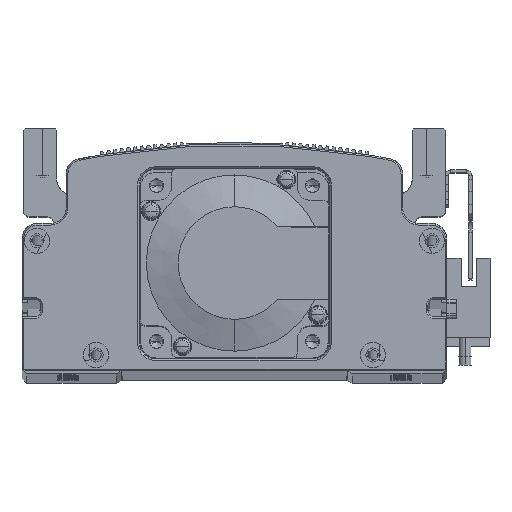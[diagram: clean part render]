
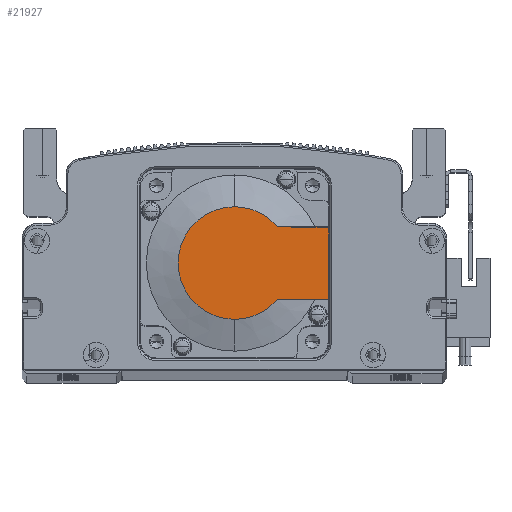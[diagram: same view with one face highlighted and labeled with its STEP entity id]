
A CAD part, top view. The second image highlights one B-rep face of the part: STEP entity #21927.
In plain terms, the highlighted planar face has unit normal (0, 0, 1) as drawn and (-1, 0, 0) by its records, which use the part's own axes.
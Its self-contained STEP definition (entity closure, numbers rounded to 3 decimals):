
#1055 = LINE ( 'NONE', #48870, #12759 ) ;
#2991 = ORIENTED_EDGE ( 'NONE', *, *, #17504, .F. ) ;
#3157 = DIRECTION ( 'NONE',  ( 0., -1., 0. ) ) ;
#4142 = ORIENTED_EDGE ( 'NONE', *, *, #20078, .T. ) ;
#5216 = CARTESIAN_POINT ( 'NONE',  ( -118.5, 30., 25. ) ) ;
#8386 = EDGE_CURVE ( 'NONE', #72467, #21754, #1055, .T. ) ;
#8389 = AXIS2_PLACEMENT_3D ( 'NONE', #21388, #15419, #67828 ) ;
#8963 = CARTESIAN_POINT ( 'NONE',  ( -118.5, 0., 0. ) ) ;
#9481 = CIRCLE ( 'NONE', #30295, 17.881 ) ;
#11027 = DIRECTION ( 'NONE',  ( 0., 0., 1. ) ) ;
#11871 = AXIS2_PLACEMENT_3D ( 'NONE', #8963, #66126, #48629 ) ;
#12759 = VECTOR ( 'NONE', #3157, 1000. ) ;
#15419 = DIRECTION ( 'NONE',  ( -1., 0., 0. ) ) ;
#17504 = EDGE_CURVE ( 'NONE', #72467, #24274, #29685, .T. ) ;
#17765 = CARTESIAN_POINT ( 'NONE',  ( -118.5, 13.735, -11.45 ) ) ;
#20078 = EDGE_CURVE ( 'NONE', #72967, #26400, #34830, .T. ) ;
#20476 = ORIENTED_EDGE ( 'NONE', *, *, #64157, .T. ) ;
#21388 = CARTESIAN_POINT ( 'NONE',  ( -118.5, 0., 0. ) ) ;
#21444 = CARTESIAN_POINT ( 'NONE',  ( -118.5, 0., -17.881 ) ) ;
#21754 = VERTEX_POINT ( 'NONE', #17765 ) ;
#21927 = ADVANCED_FACE ( 'NONE', ( #58047 ), #54968, .T. ) ;
#24268 = CARTESIAN_POINT ( 'NONE',  ( -118.5, 30., -11.45 ) ) ;
#24274 = VERTEX_POINT ( 'NONE', #37502 ) ;
#26400 = VERTEX_POINT ( 'NONE', #38494 ) ;
#27739 = CARTESIAN_POINT ( 'NONE',  ( -118.5, 13.735, 11.45 ) ) ;
#27815 = LINE ( 'NONE', #64529, #44928 ) ;
#29392 = CIRCLE ( 'NONE', #11871, 17.881 ) ;
#29685 = LINE ( 'NONE', #5216, #57596 ) ;
#30295 = AXIS2_PLACEMENT_3D ( 'NONE', #58207, #63201, #63713 ) ;
#34830 = CIRCLE ( 'NONE', #8389, 17.881 ) ;
#34994 = VERTEX_POINT ( 'NONE', #27739 ) ;
#37502 = CARTESIAN_POINT ( 'NONE',  ( -118.5, 30., 11.45 ) ) ;
#38494 = CARTESIAN_POINT ( 'NONE',  ( -118.5, 0., 17.881 ) ) ;
#43580 = AXIS2_PLACEMENT_3D ( 'NONE', #43671, #60256, #66461 ) ;
#43671 = CARTESIAN_POINT ( 'NONE',  ( -118.5, -8.941, 0. ) ) ;
#44928 = VECTOR ( 'NONE', #47739, 1000. ) ;
#47739 = DIRECTION ( 'NONE',  ( 0., -1., 0. ) ) ;
#48629 = DIRECTION ( 'NONE',  ( 0., 0., -1. ) ) ;
#48679 = ORIENTED_EDGE ( 'NONE', *, *, #56393, .F. ) ;
#48870 = CARTESIAN_POINT ( 'NONE',  ( -118.5, -8.941, -11.45 ) ) ;
#54968 = PLANE ( 'NONE',  #43580 ) ;
#56218 = EDGE_LOOP ( 'NONE', ( #71172, #20476, #4142, #61491, #48679, #2991 ) ) ;
#56393 = EDGE_CURVE ( 'NONE', #24274, #34994, #27815, .T. ) ;
#57596 = VECTOR ( 'NONE', #11027, 1000. ) ;
#58047 = FACE_OUTER_BOUND ( 'NONE', #56218, .T. ) ;
#58207 = CARTESIAN_POINT ( 'NONE',  ( -118.5, 0., 0. ) ) ;
#59732 = EDGE_CURVE ( 'NONE', #26400, #34994, #9481, .T. ) ;
#60256 = DIRECTION ( 'NONE',  ( -1., 0., 0. ) ) ;
#61491 = ORIENTED_EDGE ( 'NONE', *, *, #59732, .T. ) ;
#63201 = DIRECTION ( 'NONE',  ( -1., 0., 0. ) ) ;
#63713 = DIRECTION ( 'NONE',  ( 0., 0., -1. ) ) ;
#64157 = EDGE_CURVE ( 'NONE', #21754, #72967, #29392, .T. ) ;
#64529 = CARTESIAN_POINT ( 'NONE',  ( -118.5, 0., 11.45 ) ) ;
#66126 = DIRECTION ( 'NONE',  ( -1., 0., 0. ) ) ;
#66461 = DIRECTION ( 'NONE',  ( 0., 0., 1. ) ) ;
#67828 = DIRECTION ( 'NONE',  ( 0., 0., -1. ) ) ;
#71172 = ORIENTED_EDGE ( 'NONE', *, *, #8386, .T. ) ;
#72467 = VERTEX_POINT ( 'NONE', #24268 ) ;
#72967 = VERTEX_POINT ( 'NONE', #21444 ) ;
